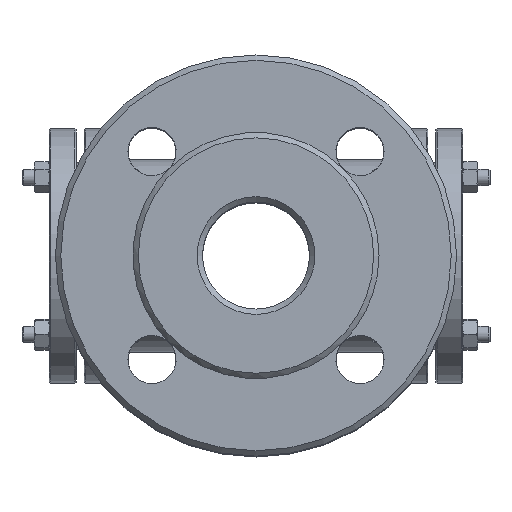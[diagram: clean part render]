
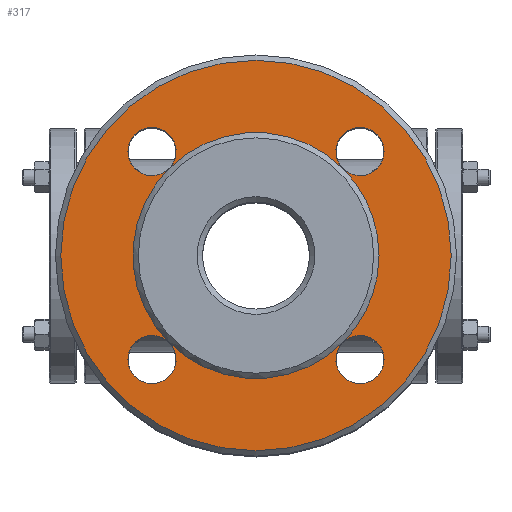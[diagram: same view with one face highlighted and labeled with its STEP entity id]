
A CAD part, top view. The second image highlights one B-rep face of the part: STEP entity #317.
In plain terms, the highlighted planar face has unit normal (0, 0, 1).
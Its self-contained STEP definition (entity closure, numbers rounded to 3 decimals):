
#317=ADVANCED_FACE('',(#2888,#2890,#2892,#2894,#2896,#2898),#2900,.T.);
#2888=FACE_BOUND('',#2889,.T.);
#2889=EDGE_LOOP('',(#8129));
#2890=FACE_BOUND('',#2891,.T.);
#2891=EDGE_LOOP('',(#8130,#8131));
#2892=FACE_BOUND('',#2893,.T.);
#2893=EDGE_LOOP('',(#8132,#8133));
#2894=FACE_BOUND('',#2895,.T.);
#2895=EDGE_LOOP('',(#8134,#8135,#8136,#8137));
#2896=FACE_BOUND('',#2897,.T.);
#2897=EDGE_LOOP('',(#8138));
#2898=FACE_BOUND('',#2899,.T.);
#2899=EDGE_LOOP('',(#8139,#8140));
#2900=PLANE('',#2901);
#2901=AXIS2_PLACEMENT_3D('',#2902,#2903,#2904);
#2902=CARTESIAN_POINT('',(0.,0.,98.));
#2903=DIRECTION('',(0.,0.,1.));
#2904=DIRECTION('',(1.,0.,0.));
#8129=ORIENTED_EDGE('',*,*,#10344,.F.);
#8130=ORIENTED_EDGE('',*,*,#10345,.T.);
#8131=ORIENTED_EDGE('',*,*,#10346,.T.);
#8132=ORIENTED_EDGE('',*,*,#10347,.T.);
#8133=ORIENTED_EDGE('',*,*,#10348,.T.);
#8134=ORIENTED_EDGE('',*,*,#10289,.T.);
#8135=ORIENTED_EDGE('',*,*,#10288,.F.);
#8136=ORIENTED_EDGE('',*,*,#10287,.F.);
#8137=ORIENTED_EDGE('',*,*,#10290,.F.);
#8138=ORIENTED_EDGE('',*,*,#10349,.F.);
#8139=ORIENTED_EDGE('',*,*,#10350,.F.);
#8140=ORIENTED_EDGE('',*,*,#10351,.F.);
#10287=EDGE_CURVE('',#11489,#11490,#11491,.T.);
#10288=EDGE_CURVE('',#11490,#11492,#11493,.T.);
#10289=EDGE_CURVE('',#11494,#11492,#11495,.T.);
#10290=EDGE_CURVE('',#11494,#11489,#11496,.T.);
#10344=EDGE_CURVE('',#11579,#11579,#11580,.T.);
#10345=EDGE_CURVE('',#11490,#11581,#11582,.T.);
#10346=EDGE_CURVE('',#11581,#11490,#11583,.T.);
#10347=EDGE_CURVE('',#11494,#11584,#11585,.T.);
#10348=EDGE_CURVE('',#11584,#11494,#11586,.T.);
#10349=EDGE_CURVE('',#11587,#11587,#11588,.T.);
#10350=EDGE_CURVE('',#11589,#11492,#11590,.T.);
#10351=EDGE_CURVE('',#11492,#11589,#11591,.T.);
#11489=VERTEX_POINT('',#14892);
#11490=VERTEX_POINT('',#14893);
#11491=CIRCLE('',#14894,46.);
#11492=VERTEX_POINT('',#14898);
#11493=CIRCLE('',#14899,46.);
#11494=VERTEX_POINT('',#14903);
#11495=CIRCLE('',#14904,46.);
#11496=CIRCLE('',#14908,46.);
#11579=VERTEX_POINT('',#16121);
#11580=CIRCLE('',#16122,73.);
#11581=VERTEX_POINT('',#16126);
#11582=CIRCLE('',#16127,9.);
#11583=CIRCLE('',#16131,9.);
#11584=VERTEX_POINT('',#16135);
#11585=CIRCLE('',#16136,9.);
#11586=CIRCLE('',#16140,9.);
#11587=VERTEX_POINT('',#16144);
#11588=CIRCLE('',#16145,9.);
#11589=VERTEX_POINT('',#16149);
#11590=CIRCLE('',#16150,9.);
#11591=CIRCLE('',#16154,9.);
#14892=CARTESIAN_POINT('',(46.,0.,98.));
#14893=CARTESIAN_POINT('',(32.527,32.527,98.));
#14894=AXIS2_PLACEMENT_3D('',#14895,#14896,#14897);
#14895=CARTESIAN_POINT('',(0.,0.,98.));
#14896=DIRECTION('',(0.,0.,1.));
#14897=DIRECTION('',(1.,0.,0.));
#14898=CARTESIAN_POINT('',(-32.527,32.527,98.));
#14899=AXIS2_PLACEMENT_3D('',#14900,#14901,#14902);
#14900=CARTESIAN_POINT('',(0.,0.,98.));
#14901=DIRECTION('',(0.,0.,1.));
#14902=DIRECTION('',(0.707,0.707,0.));
#14903=CARTESIAN_POINT('',(32.527,-32.527,98.));
#14904=AXIS2_PLACEMENT_3D('',#14905,#14906,#14907);
#14905=CARTESIAN_POINT('',(0.,0.,98.));
#14906=DIRECTION('',(0.,0.,-1.));
#14907=DIRECTION('',(0.707,-0.707,0.));
#14908=AXIS2_PLACEMENT_3D('',#14909,#14910,#14911);
#14909=CARTESIAN_POINT('',(0.,0.,98.));
#14910=DIRECTION('',(0.,0.,1.));
#14911=DIRECTION('',(0.707,-0.707,0.));
#16121=CARTESIAN_POINT('',(73.,0.,98.));
#16122=AXIS2_PLACEMENT_3D('',#16123,#16124,#16125);
#16123=CARTESIAN_POINT('',(0.,0.,98.));
#16124=DIRECTION('',(0.,0.,-1.));
#16125=DIRECTION('',(1.,0.,0.));
#16126=CARTESIAN_POINT('',(47.891,38.891,98.));
#16127=AXIS2_PLACEMENT_3D('',#16128,#16129,#16130);
#16128=CARTESIAN_POINT('',(38.891,38.891,98.));
#16129=DIRECTION('',(0.,0.,-1.));
#16130=DIRECTION('',(-0.707,-0.707,0.));
#16131=AXIS2_PLACEMENT_3D('',#16132,#16133,#16134);
#16132=CARTESIAN_POINT('',(38.891,38.891,98.));
#16133=DIRECTION('',(0.,0.,-1.));
#16134=DIRECTION('',(1.,0.,0.));
#16135=CARTESIAN_POINT('',(47.891,-38.891,98.));
#16136=AXIS2_PLACEMENT_3D('',#16137,#16138,#16139);
#16137=CARTESIAN_POINT('',(38.891,-38.891,98.));
#16138=DIRECTION('',(0.,0.,-1.));
#16139=DIRECTION('',(-0.707,0.707,0.));
#16140=AXIS2_PLACEMENT_3D('',#16141,#16142,#16143);
#16141=CARTESIAN_POINT('',(38.891,-38.891,98.));
#16142=DIRECTION('',(0.,0.,-1.));
#16143=DIRECTION('',(1.,0.,0.));
#16144=CARTESIAN_POINT('',(-47.891,-38.891,98.));
#16145=AXIS2_PLACEMENT_3D('',#16146,#16147,#16148);
#16146=CARTESIAN_POINT('',(-38.891,-38.891,98.));
#16147=DIRECTION('',(0.,0.,1.));
#16148=DIRECTION('',(-1.,0.,0.));
#16149=CARTESIAN_POINT('',(-47.891,38.891,98.));
#16150=AXIS2_PLACEMENT_3D('',#16151,#16152,#16153);
#16151=CARTESIAN_POINT('',(-38.891,38.891,98.));
#16152=DIRECTION('',(0.,0.,1.));
#16153=DIRECTION('',(-1.,0.,0.));
#16154=AXIS2_PLACEMENT_3D('',#16155,#16156,#16157);
#16155=CARTESIAN_POINT('',(-38.891,38.891,98.));
#16156=DIRECTION('',(0.,0.,1.));
#16157=DIRECTION('',(0.707,-0.707,0.));
